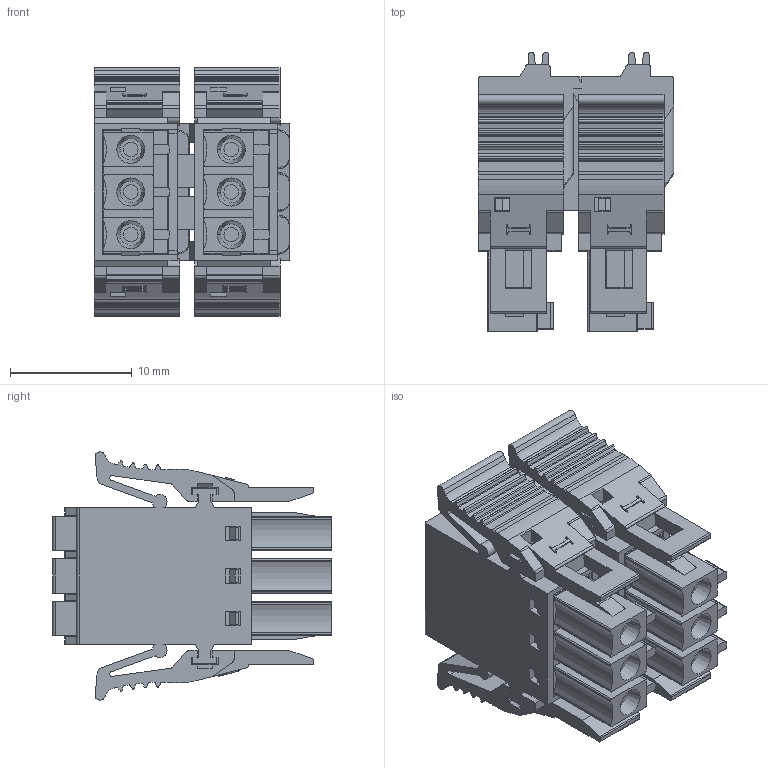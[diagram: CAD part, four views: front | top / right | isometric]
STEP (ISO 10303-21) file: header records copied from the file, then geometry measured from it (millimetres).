
FILE_DESCRIPTION((''),'2;1');
FILE_NAME('333','2019-04-11T',('zhenbing.lai'),(''),'CREO PARAMETRIC BY PTC INC, 2016260','CREO PARAMETRIC BY PTC INC, 2016260','');
FILE_SCHEMA(('CONFIG_CONTROL_DESIGN'));
Length unit declared in the file: millimetre
Products named in the file (1): 333
Bounding box: 16.05 x 22.9 x 20.4 mm (x, y, z)
Volume: 3508.7 mm3; surface area: 4646.7 mm2
Topology: 1 solids, 1 shells, 1510 faces, 4420 edges, 2926 vertices
Faces by surface type: plane 1078, cylinder 312, extrusion 54, cone 52, bspline 14
Entity records: 51048 total; most frequent: CARTESIAN_POINT 10536, ORIENTED_EDGE 8824, DIRECTION 7922, EDGE_CURVE 4412, VECTOR 3498, LINE 3444, VERTEX_POINT 2926, AXIS2_PLACEMENT_3D 2212
